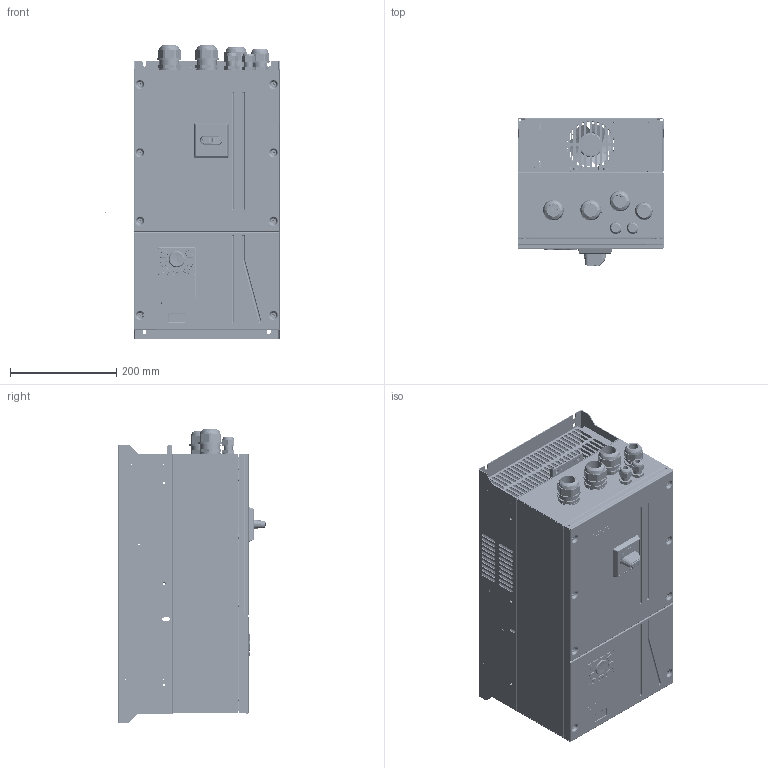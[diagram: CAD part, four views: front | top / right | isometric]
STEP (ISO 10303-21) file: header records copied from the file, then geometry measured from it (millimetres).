
FILE_DESCRIPTION((''),'2;1');
FILE_NAME('GD350-022G-45-AS_ASM','2021-08-20T14:15:28',('Administrator'),(''),'CREO PARAMETRIC BY PTC INC, 2019080','CREO PARAMETRIC BY PTC INC, 2019080','');
FILE_SCHEMA(('CONFIG_CONTROL_DESIGN'));
Products named in the file (116): 80310617; YMD-55-0D8-SL; ZS-M5-ZC; 80310617_ASM; 80483099; S-M4-ZC; BSO-M4-15-ZC; 80483099_ASM; 80483100; YMD-70-1D5-SL; 80483100_ASM; 80385508; 80385508_ASM; GB12617_4_4X10_SL; 61210530_ASM; 61210530SY; 61210530SY_ASM; 80340247; TPR-4-12-SL; BS-M4-10; BSO-3D5M3-6-ZC; BSO-M4-12R5-SL; BSO-M4-14-SL; BSO-M4-16-ZC; BSO-M4-22_ZC; 80340247_ASM; 80385378; 61061654_ASM; 80410535; 80410535_ASM; 80386760; 61761441_ASM; 61761441SY; 61761441SY_ASM; 80410536; FH-M3-10-ZC; 80410536_ASM; 80440867; 78400221; 78400220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
Assembly tree (236 placements, depth 6):
  GD350-022G-45-AS_ASM
    41000822_ASM
      61210530SY_ASM
        61210530_ASM
          80310617_ASM
            80310617
            YMD-55-0D8-SL  x2
            ZS-M5-ZC  x4
          80483099_ASM
            80483099
            S-M4-ZC  x4
            ZS-M5-ZC  x2
            BSO-M4-15-ZC
          80483100_ASM
            80483100
            YMD-70-1D5-SL  x2
          80385508_ASM
            80385508
            ZS-M5-ZC  x2
          GB12617_4_4X10_SL  x13
        61210530SY
      61061654_ASM
        80340247_ASM
          80340247
          YMD-55-0D8-SL  x2
          TPR-4-12-SL  x2
          BS-M4-10  x15
          BSO-3D5M3-6-ZC  x12
          BSO-M4-12R5-SL  x8
          BSO-M4-14-SL  x2
          BSO-M4-16-ZC  x6
          BSO-M4-22_ZC
        80385378  x2
      61761441SY_ASM
        61761441_ASM
          80410535_ASM
            80410535
            YMD-55-0D8-SL  x2
          80386760  x2
        61761441SY
      61761442SY_ASM
        61761442_ASM
          80410536_ASM
            80410536
            FH-M3-10-ZC  x6
            YMD-55-0D8-SL  x4
          80440867  x4
          78400221  x2
          78400220  x2
        61761442SY
      86870109
    40840378_ASM
    41060111_ASM
      80385389_ASM
    40801301_ASM
      61500398_ASM
        80386761SY_ASM
          80386761_ASM
            80386761
            SO-M4-12-ZC  x4
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Bounding box: 329.02 x 279.47 x 551.45 mm (x, y, z)
Volume: 2237108.4 mm3; surface area: 2478894.1 mm2
Topology: 204 solids, 223 shells, 20355 faces, 52615 edges, 33629 vertices
Faces by surface type: plane 15104, cylinder 3173, cone 1021, torus 529, bspline 375, extrusion 81, sphere 44, revolution 28
Entity records: 322632 total; most frequent: CARTESIAN_POINT 82260, ORIENTED_EDGE 49342, DIRECTION 48715, EDGE_CURVE 24687, VECTOR 17929, LINE 17848, VERTEX_POINT 15635, AXIS2_PLACEMENT_3D 15379
